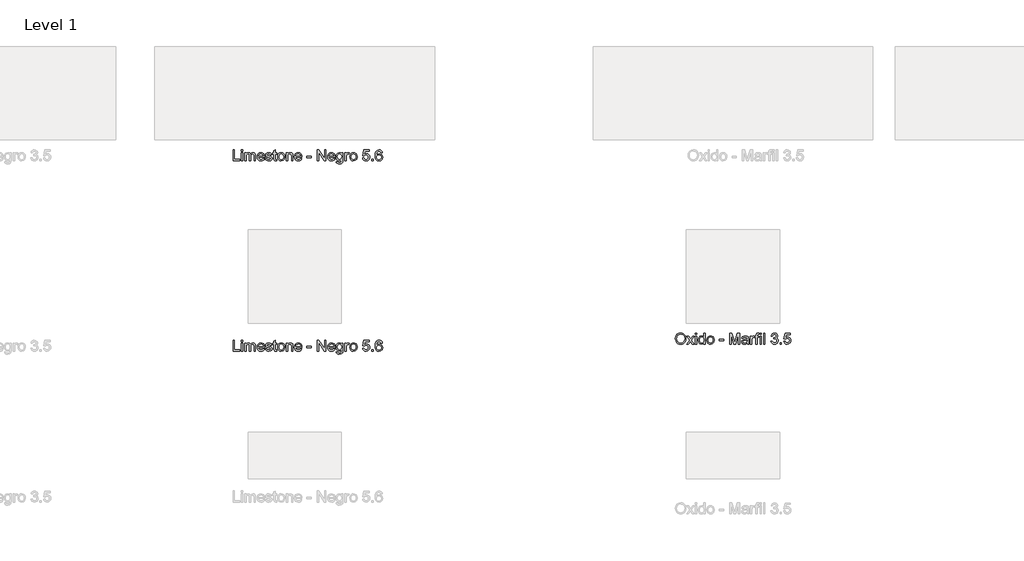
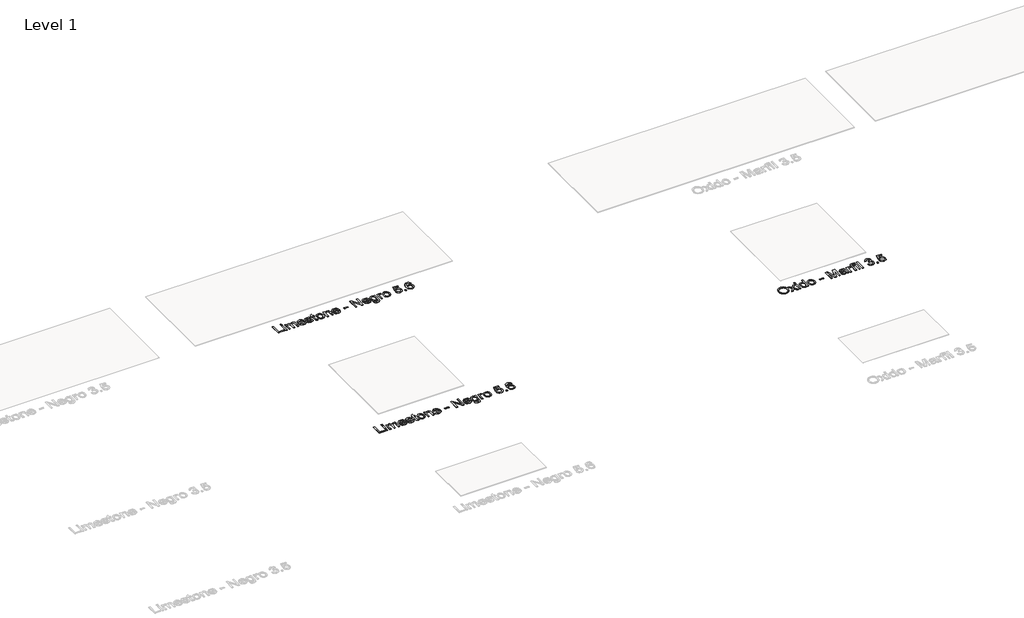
# One storey, part 29 of 80: 3 proxies.
"""IFC4 building model written with IfcOpenShell, lengths in millimetres."""

from ifc_helpers import new_model, si_unit, origin, origin_with_axes, place, context, project, spatial, polyline, outline, extrude, element, save

model = new_model("IFC4")

# Units and contexts
model_context = context("Model", 3, world=origin())
ifc_project = project(units=[si_unit("LENGTHUNIT", "METRE", prefix="MILLI")], contexts=[model_context])

# Site, building, storey
site = spatial("IfcSite", under=ifc_project)
building = spatial("IfcBuilding", under=site)
storey = spatial("IfcBuildingStorey", under=building, Name="Level 1", Elevation=0.0)

# Proxies
placement = place(None, origin())
element("IfcBuildingElementProxy", 1, Name="24\" Arial", ObjectType="24\" Arial", at=placement, inside=storey, context=model_context, shape_type="SweptSolid", body=[
    extrude(outline(polyline([(173.5392767, -16654.869717), (173.5392767, -16536.7158709), (188.3085075, -16536.7158709), (188.3085075, -16640.1004862), (247.3854306, -16640.1004862), (247.3854306, -16654.869717), (173.5392767, -16654.869717)])), origin_with_axes(), (0.0, 0.0, 1.0), 2.0),
    extrude(outline(polyline([(262.1546613, -16551.4851016), (262.1546613, -16536.7158709), (276.9238921, -16536.7158709), (276.9238921, -16551.4851016), (262.1546613, -16551.4851016)])), origin_with_axes(), (0.0, 0.0, 1.0), 2.0),
    extrude(outline(polyline([(262.1546613, -16654.869717), (262.1546613, -16568.1004862), (276.9238921, -16568.1004862), (276.9238921, -16654.869717), (262.1546613, -16654.869717)])), origin_with_axes(), (0.0, 0.0, 1.0), 2.0),
    extrude(outline(polyline([(299.0777383, -16654.869717), (299.0777383, -16568.1004862), (313.846969, -16568.1004862), (313.846969, -16582.3793324), (324.0008152, -16570.682217), (338.4527383, -16566.2543324), (353.2508152, -16570.7687555), (361.3854306, -16583.4177939), (372.909469, -16570.5451978), (387.4623536, -16566.2543324), (398.5645171, -16568.0391882), (406.7748536, -16573.3937555), (411.8481709, -16582.4622651), (413.5392767, -16595.3889478), (413.5392767, -16654.869717), (398.7700459, -16654.869717), (398.7700459, -16601.7351016), (397.3998536, -16589.4033709), (392.4383152, -16583.3312555), (384.0008152, -16581.0235632), (375.9996133, -16582.5019285), (369.4767767, -16586.9370247), (365.1390363, -16594.6317362), (363.6931229, -16605.8889478), (363.6931229, -16654.869717), (348.9238921, -16654.869717), (348.9238921, -16600.0908709), (345.5056229, -16585.7831785), (334.2988921, -16581.0235632), (323.3661998, -16584.1966401), (316.096969, -16593.4851016), (313.846969, -16611.1101016), (313.846969, -16654.869717), (299.0777383, -16654.869717)])), origin_with_axes(), (0.0, 0.0, 1.0), 2.0),
    extrude(outline(polyline([(496.4431229, -16629.0235632), (510.9238921, -16630.869717), (505.706344, -16641.7807747), (497.3806229, -16649.9370247), (486.1342286, -16655.0211593), (472.1546613, -16656.7158709), (454.8253344, -16653.791592), (441.4911998, -16645.0187555), (432.9887959, -16630.9670728), (430.1546613, -16612.2062555), (433.0176421, -16592.8144285), (441.6065844, -16578.3120247), (454.7604306, -16569.2687555), (471.3181229, -16566.2543324), (487.3601902, -16569.2615439), (500.1786998, -16578.2831785), (508.5837479, -16592.7567362), (511.3854306, -16612.119717), (511.2988921, -16616.1004862), (444.9238921, -16616.1004862), (447.4803825, -16627.1557747), (453.4190844, -16635.2831785), (461.9899979, -16640.2807747), (472.4431229, -16641.9466401), (486.9238921, -16638.8601016), (496.4431229, -16629.0235632)]), holes=[polyline([(444.9238921, -16601.3312555), (496.6161998, -16601.3312555), (490.7027383, -16587.9466401), (482.0921613, -16582.7543324), (471.2604306, -16581.0235632), (453.0729306, -16586.5476016), (447.3505748, -16593.0055343), (444.9238921, -16601.3312555)])]), origin_with_axes(), (0.0, 0.0, 1.0), 2.0),
    extrude(outline(polyline([(520.6161998, -16629.0235632), (535.3854306, -16627.1774093), (542.221969, -16638.1389478), (557.8854306, -16641.9466401), (572.9431229, -16638.4562555), (577.846969, -16630.2639478), (572.9142767, -16623.6293324), (557.7123536, -16619.4177939), (535.471969, -16612.1918324), (525.7652383, -16603.7543324), (522.4623536, -16591.8408709), (525.1161998, -16580.8360632), (532.3565844, -16572.4274093), (541.7460075, -16568.057217), (554.4527383, -16566.2543324), (572.4238921, -16569.1533709), (583.846969, -16576.9995247), (588.9238921, -16590.2543324), (574.1546613, -16592.1004862), (568.6017767, -16583.9514478), (555.6065844, -16581.0235632), (541.471969, -16583.8216401), (537.2315844, -16590.3408709), (538.9911998, -16594.6389478), (544.5008152, -16597.8985632), (557.221969, -16601.0427939), (578.8998536, -16607.994717), (588.9671613, -16615.869717), (592.6161998, -16628.7062555), (588.3325459, -16642.8408709), (575.971969, -16653.0956785), (557.6835075, -16656.7158709), (542.7916806, -16654.9706785), (531.9238921, -16649.7351016), (524.6690844, -16641.0668324), (520.6161998, -16629.0235632)])), origin_with_axes(), (0.0, 0.0, 1.0), 2.0),
    extrude(outline(polyline([(640.6161998, -16642.5524093), (642.4623536, -16655.3024093), (631.4142767, -16656.7158709), (619.0392767, -16654.2639478), (612.8661998, -16647.8312555), (611.0777383, -16631.0716401), (611.0777383, -16582.869717), (600.0008152, -16582.869717), (600.0008152, -16568.1004862), (611.0777383, -16568.1004862), (611.0777383, -16547.0139478), (625.846969, -16538.3312555), (625.846969, -16568.1004862), (640.6161998, -16568.1004862), (640.6161998, -16582.869717), (625.846969, -16582.869717), (625.846969, -16630.6389478), (626.6258152, -16638.2543324), (629.1498536, -16640.9514478), (634.1835075, -16641.9466401), (640.6161998, -16642.5524093)])), origin_with_axes(), (0.0, 0.0, 1.0), 2.0),
    extrude(outline(polyline([(651.6931229, -16611.4851016), (654.8878344, -16590.5644285), (664.471969, -16575.8601016), (676.3133152, -16568.6557747), (690.4911998, -16566.2543324), (706.0068248, -16569.1786112), (718.3998536, -16577.9514478), (726.5236517, -16591.8805343), (729.2315844, -16610.2735632), (724.4431229, -16636.5524093), (710.4960075, -16651.4226016), (690.4911998, -16656.7158709), (674.7880748, -16653.8024093), (662.409469, -16645.0620247), (654.3722094, -16630.8408709), (651.6931229, -16611.4851016)]), holes=[polyline([(666.4623536, -16611.4562555), (668.1714883, -16624.822842), (673.2988921, -16634.3456785), (681.0152383, -16640.0463997), (690.4911998, -16641.9466401), (699.9238921, -16640.0355824), (707.6258152, -16634.3024093), (712.753219, -16624.6533709), (714.4623536, -16610.994717), (712.7424017, -16598.0175535), (707.5825459, -16588.6245247), (699.8698056, -16582.9238035), (690.4911998, -16581.0235632), (681.0152383, -16582.916592), (673.2988921, -16588.5956785), (668.1714883, -16598.0968805), (666.4623536, -16611.4562555)])]), origin_with_axes(), (0.0, 0.0, 1.0), 2.0),
    extrude(outline(polyline([(745.846969, -16654.869717), (745.846969, -16568.1004862), (760.6161998, -16568.1004862), (760.6161998, -16580.2158709), (771.909469, -16569.744717), (787.3277383, -16566.2543324), (801.2748536, -16569.0668324), (810.7940844, -16576.4514478), (815.221969, -16587.3120247), (816.0008152, -16601.5908709), (816.0008152, -16654.869717), (801.2315844, -16654.869717), (801.2315844, -16603.5812555), (799.5296613, -16590.5139478), (793.5152383, -16583.6052939), (783.3758152, -16581.0235632), (767.3517767, -16586.8216401), (762.300094, -16595.2230824), (760.6161998, -16608.8312555), (760.6161998, -16654.869717), (745.846969, -16654.869717)])), origin_with_axes(), (0.0, 0.0, 1.0), 2.0),
    extrude(outline(polyline([(897.0585075, -16629.0235632), (911.5392767, -16630.869717), (906.3217286, -16641.7807747), (897.9960075, -16649.9370247), (886.7496133, -16655.0211593), (872.7700459, -16656.7158709), (855.440719, -16653.791592), (842.1065844, -16645.0187555), (833.6041806, -16630.9670728), (830.7700459, -16612.2062555), (833.6330267, -16592.8144285), (842.221969, -16578.3120247), (855.3758152, -16569.2687555), (871.9335075, -16566.2543324), (887.9755748, -16569.2615439), (900.7940844, -16578.2831785), (909.1991325, -16592.7567362), (912.0008152, -16612.119717), (911.9142767, -16616.1004862), (845.5392767, -16616.1004862), (848.0957671, -16627.1557747), (854.034469, -16635.2831785), (862.6053825, -16640.2807747), (873.0585075, -16641.9466401), (887.5392767, -16638.8601016), (897.0585075, -16629.0235632)]), holes=[polyline([(845.5392767, -16601.3312555), (897.2315844, -16601.3312555), (891.3181229, -16587.9466401), (882.7075459, -16582.7543324), (871.8758152, -16581.0235632), (853.6883152, -16586.5476016), (847.9659594, -16593.0055343), (845.5392767, -16601.3312555)])]), origin_with_axes(), (0.0, 0.0, 1.0), 2.0),
    extrude(outline(polyline([(965.5392767, -16619.7927939), (965.5392767, -16605.0235632), (1011.6931229, -16605.0235632), (1011.6931229, -16619.7927939), (965.5392767, -16619.7927939)])), origin_with_axes(), (0.0, 0.0, 1.0), 2.0),
    extrude(outline(polyline([(1076.3085075, -16654.869717), (1076.3085075, -16536.7158709), (1092.1161998, -16536.7158709), (1153.846969, -16630.3216401), (1153.846969, -16536.7158709), (1168.6161998, -16536.7158709), (1168.6161998, -16654.869717), (1152.8085075, -16654.869717), (1091.0777383, -16561.2351016), (1091.0777383, -16654.869717), (1076.3085075, -16654.869717)])), origin_with_axes(), (0.0, 0.0, 1.0), 2.0),
    extrude(outline(polyline([(1253.3661998, -16629.0235632), (1267.846969, -16630.869717), (1262.6294209, -16641.7807747), (1254.3036998, -16649.9370247), (1243.0573056, -16655.0211593), (1229.0777383, -16656.7158709), (1211.7484113, -16653.791592), (1198.4142767, -16645.0187555), (1189.9118729, -16630.9670728), (1187.0777383, -16612.2062555), (1189.940719, -16592.8144285), (1198.5296613, -16578.3120247), (1211.6835075, -16569.2687555), (1228.2411998, -16566.2543324), (1244.2832671, -16569.2615439), (1257.1017767, -16578.2831785), (1265.5068248, -16592.7567362), (1268.3085075, -16612.119717), (1268.221969, -16616.1004862), (1201.846969, -16616.1004862), (1204.4034594, -16627.1557747), (1210.3421613, -16635.2831785), (1218.9130748, -16640.2807747), (1229.3661998, -16641.9466401), (1243.846969, -16638.8601016), (1253.3661998, -16629.0235632)]), holes=[polyline([(1201.846969, -16601.3312555), (1253.5392767, -16601.3312555), (1247.6258152, -16587.9466401), (1239.0152383, -16582.7543324), (1228.1835075, -16581.0235632), (1209.9960075, -16586.5476016), (1204.2736517, -16593.0055343), (1201.846969, -16601.3312555)])]), origin_with_axes(), (0.0, 0.0, 1.0), 2.0),
    extrude(outline(polyline([(1279.3854306, -16662.2543324), (1294.1546613, -16664.1004862), (1298.9431229, -16671.8889478), (1313.2796613, -16675.1774093), (1328.3950459, -16671.4562555), (1335.6065844, -16661.0139478), (1336.6161998, -16643.7927939), (1326.2171613, -16652.1004862), (1313.5392767, -16654.869717), (1298.3121133, -16651.6461593), (1286.9575459, -16641.9754862), (1279.893844, -16627.7976016), (1277.5392767, -16611.0524093), (1281.7652383, -16588.1629862), (1293.9960075, -16571.9658709), (1312.8181229, -16566.2543324), (1325.9936036, -16569.4851016), (1336.6161998, -16579.1774093), (1336.6161998, -16568.1004862), (1351.3854306, -16568.1004862), (1351.3854306, -16643.0139478), (1347.346969, -16671.7014478), (1334.5536998, -16685.0427939), (1312.9911998, -16689.9466401), (1299.2496133, -16688.2194766), (1288.4286998, -16683.0379862), (1281.487594, -16674.3877459), (1279.3854306, -16662.2543324)]), holes=[polyline([(1292.3085075, -16610.0427939), (1293.8842286, -16623.5896689), (1298.6113921, -16632.9033709), (1305.7183633, -16638.3012074), (1314.4335075, -16640.1004862), (1323.0837479, -16638.3120247), (1330.2267767, -16632.9466401), (1335.018844, -16623.7519285), (1336.6161998, -16610.4754862), (1334.971969, -16597.6713997), (1330.0392767, -16588.4514478), (1322.7916806, -16582.8805343), (1314.2027383, -16581.0235632), (1305.768844, -16582.8516882), (1298.6979306, -16588.3360632), (1293.9058633, -16597.4189959), (1292.3085075, -16610.0427939)])]), origin_with_axes(), (0.0, 0.0, 1.0), 2.0),
    extrude(outline(polyline([(1373.5392767, -16654.869717), (1373.5392767, -16568.1004862), (1386.4623536, -16568.1004862), (1386.4623536, -16580.9370247), (1395.6354306, -16569.1101016), (1404.8661998, -16566.2543324), (1419.6931229, -16570.8120247), (1414.7604306, -16584.0524093), (1404.3758152, -16581.0235632), (1396.0248536, -16583.9370247), (1390.7027383, -16592.0139478), (1388.3085075, -16609.2639478), (1388.3085075, -16654.869717), (1373.5392767, -16654.869717)])), origin_with_axes(), (0.0, 0.0, 1.0), 2.0),
    extrude(outline(polyline([(1425.2315844, -16611.4851016), (1428.4262959, -16590.5644285), (1438.0104306, -16575.8601016), (1449.8517767, -16568.6557747), (1464.0296613, -16566.2543324), (1479.5452863, -16569.1786112), (1491.9383152, -16577.9514478), (1500.0621133, -16591.8805343), (1502.7700459, -16610.2735632), (1497.9815844, -16636.5524093), (1484.034469, -16651.4226016), (1464.0296613, -16656.7158709), (1448.3265363, -16653.8024093), (1435.9479306, -16645.0620247), (1427.9106709, -16630.8408709), (1425.2315844, -16611.4851016)]), holes=[polyline([(1440.0008152, -16611.4562555), (1441.7099498, -16624.822842), (1446.8373536, -16634.3456785), (1454.5536998, -16640.0463997), (1464.0296613, -16641.9466401), (1473.4623536, -16640.0355824), (1481.1642767, -16634.3024093), (1486.2916806, -16624.6533709), (1488.0008152, -16610.994717), (1486.2808633, -16598.0175535), (1481.1210075, -16588.6245247), (1473.4082671, -16582.9238035), (1464.0296613, -16581.0235632), (1454.5536998, -16582.916592), (1446.8373536, -16588.5956785), (1441.7099498, -16598.0968805), (1440.0008152, -16611.4562555)])]), origin_with_axes(), (0.0, 0.0, 1.0), 2.0),
    extrude(outline(polyline([(1561.846969, -16623.4851016), (1576.6161998, -16621.6389478), (1584.0585075, -16636.8552939), (1599.4911998, -16641.9466401), (1610.0777383, -16640.1762074), (1618.0104306, -16634.8649093), (1622.9647575, -16626.6257266), (1624.6161998, -16616.0716401), (1623.0693248, -16606.1341401), (1618.4286998, -16598.5331785), (1610.6582671, -16593.7086593), (1599.721969, -16592.1004862), (1586.7556229, -16594.6677939), (1578.4623536, -16601.3312555), (1563.6931229, -16599.4851016), (1576.6161998, -16538.5620247), (1633.846969, -16538.5620247), (1633.846969, -16553.3312555), (1588.5585075, -16553.3312555), (1582.2411998, -16585.869717), (1592.7916806, -16579.4658709), (1603.846969, -16577.3312555), (1617.6462479, -16579.9778901), (1629.1017767, -16587.9177939), (1636.8145171, -16600.0187555), (1639.3854306, -16615.1485632), (1637.0705267, -16629.9177939), (1630.1258152, -16642.5524093), (1616.8277383, -16653.1750055), (1599.4335075, -16656.7158709), (1584.9274979, -16654.4406305), (1573.3710075, -16647.6149093), (1565.4491325, -16637.0319766), (1561.846969, -16623.4851016)])), origin_with_axes(), (0.0, 0.0, 1.0), 2.0),
    extrude(outline(polyline([(1659.6931229, -16654.869717), (1659.6931229, -16640.1004862), (1674.4623536, -16640.1004862), (1674.4623536, -16654.869717), (1659.6931229, -16654.869717)])), origin_with_axes(), (0.0, 0.0, 1.0), 2.0),
    extrude(outline(polyline([(1774.1546613, -16568.1004862), (1759.3854306, -16569.9466401), (1753.7892767, -16557.6293324), (1747.0897575, -16553.0211593), (1738.9911998, -16551.4851016), (1725.6642767, -16555.0620247), (1715.5825459, -16568.4899093), (1711.3854306, -16594.8120247), (1724.409469, -16583.0283709), (1740.5488921, -16579.1774093), (1754.1931229, -16581.8096209), (1765.6450459, -16589.7062555), (1773.4118729, -16601.7711593), (1776.0008152, -16616.9081785), (1771.1258152, -16637.2879862), (1757.7123536, -16651.7110632), (1738.3565844, -16656.7158709), (1721.6005748, -16653.3985632), (1708.2556229, -16643.4466401), (1699.5260556, -16625.8793324), (1696.6161998, -16599.7158709), (1699.846969, -16570.3000055), (1709.5392767, -16550.1870247), (1722.7724498, -16540.0836593), (1739.9142767, -16536.7158709), (1752.8734113, -16538.8000055), (1763.2508152, -16545.0524093), (1770.5200459, -16554.9826978), (1774.1546613, -16568.1004862)]), holes=[polyline([(1711.3854306, -16616.6774093), (1714.8036998, -16629.4706785), (1723.8902383, -16638.7591401), (1737.2027383, -16641.9466401), (1746.9491325, -16640.2951978), (1754.6113921, -16635.3408709), (1759.5765363, -16627.5524093), (1761.2315844, -16617.3985632), (1759.5981709, -16607.6521689), (1754.6979306, -16600.2206785), (1746.9058633, -16595.5151497), (1736.596969, -16593.9466401), (1726.8649979, -16595.5151497), (1718.7267767, -16600.2206785), (1713.2207671, -16607.4718805), (1711.3854306, -16616.6774093)])]), origin_with_axes(), (0.0, 0.0, 1.0), 2.0),
])
element("IfcBuildingElementProxy", 2, Name="24\" Arial", ObjectType="24\" Arial", at=placement, inside=storey, context=model_context, shape_type="SweptSolid", body=[
    extrude(outline(polyline([(173.5392767, -18695.513613), (173.5392767, -18577.3597669), (188.3085075, -18577.3597669), (188.3085075, -18680.7443823), (247.3854306, -18680.7443823), (247.3854306, -18695.513613), (173.5392767, -18695.513613)])), origin_with_axes(), (0.0, 0.0, 1.0), 2.0),
    extrude(outline(polyline([(262.1546613, -18592.1289977), (262.1546613, -18577.3597669), (276.9238921, -18577.3597669), (276.9238921, -18592.1289977), (262.1546613, -18592.1289977)])), origin_with_axes(), (0.0, 0.0, 1.0), 2.0),
    extrude(outline(polyline([(262.1546613, -18695.513613), (262.1546613, -18608.7443823), (276.9238921, -18608.7443823), (276.9238921, -18695.513613), (262.1546613, -18695.513613)])), origin_with_axes(), (0.0, 0.0, 1.0), 2.0),
    extrude(outline(polyline([(299.0777383, -18695.513613), (299.0777383, -18608.7443823), (313.846969, -18608.7443823), (313.846969, -18623.0232284), (324.0008152, -18611.326113), (338.4527383, -18606.8982284), (353.2508152, -18611.4126515), (361.3854306, -18624.06169), (372.909469, -18611.1890938), (387.4623536, -18606.8982284), (398.5645171, -18608.6830842), (406.7748536, -18614.0376515), (411.8481709, -18623.1061611), (413.5392767, -18636.0328438), (413.5392767, -18695.513613), (398.7700459, -18695.513613), (398.7700459, -18642.3789977), (397.3998536, -18630.0472669), (392.4383152, -18623.9751515), (384.0008152, -18621.6674592), (375.9996133, -18623.1458246), (369.4767767, -18627.5809207), (365.1390363, -18635.2756323), (363.6931229, -18646.5328438), (363.6931229, -18695.513613), (348.9238921, -18695.513613), (348.9238921, -18640.7347669), (345.5056229, -18626.4270746), (334.2988921, -18621.6674592), (323.3661998, -18624.8405361), (316.096969, -18634.1289977), (313.846969, -18651.7539977), (313.846969, -18695.513613), (299.0777383, -18695.513613)])), origin_with_axes(), (0.0, 0.0, 1.0), 2.0),
    extrude(outline(polyline([(496.4431229, -18669.6674592), (510.9238921, -18671.513613), (505.706344, -18682.4246707), (497.3806229, -18690.5809207), (486.1342286, -18695.6650553), (472.1546613, -18697.3597669), (454.8253344, -18694.435488), (441.4911998, -18685.6626515), (432.9887959, -18671.6109688), (430.1546613, -18652.8501515), (433.0176421, -18633.4583246), (441.6065844, -18618.9559207), (454.7604306, -18609.9126515), (471.3181229, -18606.8982284), (487.3601902, -18609.90544), (500.1786998, -18618.9270746), (508.5837479, -18633.4006323), (511.3854306, -18652.763613), (511.2988921, -18656.7443823), (444.9238921, -18656.7443823), (447.4803825, -18667.7996707), (453.4190844, -18675.9270746), (461.9899979, -18680.9246707), (472.4431229, -18682.5905361), (486.9238921, -18679.5039977), (496.4431229, -18669.6674592)]), holes=[polyline([(444.9238921, -18641.9751515), (496.6161998, -18641.9751515), (490.7027383, -18628.5905361), (482.0921613, -18623.3982284), (471.2604306, -18621.6674592), (453.0729306, -18627.1914977), (447.3505748, -18633.6494303), (444.9238921, -18641.9751515)])]), origin_with_axes(), (0.0, 0.0, 1.0), 2.0),
    extrude(outline(polyline([(520.6161998, -18669.6674592), (535.3854306, -18667.8213053), (542.221969, -18678.7828438), (557.8854306, -18682.5905361), (572.9431229, -18679.1001515), (577.846969, -18670.9078438), (572.9142767, -18664.2732284), (557.7123536, -18660.06169), (535.471969, -18652.8357284), (525.7652383, -18644.3982284), (522.4623536, -18632.4847669), (525.1161998, -18621.4799592), (532.3565844, -18613.0713053), (541.7460075, -18608.701113), (554.4527383, -18606.8982284), (572.4238921, -18609.7972669), (583.846969, -18617.6434207), (588.9238921, -18630.8982284), (574.1546613, -18632.7443823), (568.6017767, -18624.5953438), (555.6065844, -18621.6674592), (541.471969, -18624.4655361), (537.2315844, -18630.9847669), (538.9911998, -18635.2828438), (544.5008152, -18638.5424592), (557.221969, -18641.68669), (578.8998536, -18648.638613), (588.9671613, -18656.513613), (592.6161998, -18669.3501515), (588.3325459, -18683.4847669), (575.971969, -18693.7395746), (557.6835075, -18697.3597669), (542.7916806, -18695.6145746), (531.9238921, -18690.3789977), (524.6690844, -18681.7107284), (520.6161998, -18669.6674592)])), origin_with_axes(), (0.0, 0.0, 1.0), 2.0),
    extrude(outline(polyline([(640.6161998, -18683.1963053), (642.4623536, -18695.9463053), (631.4142767, -18697.3597669), (619.0392767, -18694.9078438), (612.8661998, -18688.4751515), (611.0777383, -18671.7155361), (611.0777383, -18623.513613), (600.0008152, -18623.513613), (600.0008152, -18608.7443823), (611.0777383, -18608.7443823), (611.0777383, -18587.6578438), (625.846969, -18578.9751515), (625.846969, -18608.7443823), (640.6161998, -18608.7443823), (640.6161998, -18623.513613), (625.846969, -18623.513613), (625.846969, -18671.2828438), (626.6258152, -18678.8982284), (629.1498536, -18681.5953438), (634.1835075, -18682.5905361), (640.6161998, -18683.1963053)])), origin_with_axes(), (0.0, 0.0, 1.0), 2.0),
    extrude(outline(polyline([(651.6931229, -18652.1289977), (654.8878344, -18631.2083246), (664.471969, -18616.5039977), (676.3133152, -18609.2996707), (690.4911998, -18606.8982284), (706.0068248, -18609.8225073), (718.3998536, -18618.5953438), (726.5236517, -18632.5244303), (729.2315844, -18650.9174592), (724.4431229, -18677.1963053), (710.4960075, -18692.0664977), (690.4911998, -18697.3597669), (674.7880748, -18694.4463053), (662.409469, -18685.7059207), (654.3722094, -18671.4847669), (651.6931229, -18652.1289977)]), holes=[polyline([(666.4623536, -18652.1001515), (668.1714883, -18665.466738), (673.2988921, -18674.9895746), (681.0152383, -18680.6902957), (690.4911998, -18682.5905361), (699.9238921, -18680.6794784), (707.6258152, -18674.9463053), (712.753219, -18665.2972669), (714.4623536, -18651.638613), (712.7424017, -18638.6614496), (707.5825459, -18629.2684207), (699.8698056, -18623.5676996), (690.4911998, -18621.6674592), (681.0152383, -18623.560488), (673.2988921, -18629.2395746), (668.1714883, -18638.7407765), (666.4623536, -18652.1001515)])]), origin_with_axes(), (0.0, 0.0, 1.0), 2.0),
    extrude(outline(polyline([(745.846969, -18695.513613), (745.846969, -18608.7443823), (760.6161998, -18608.7443823), (760.6161998, -18620.8597669), (771.909469, -18610.388613), (787.3277383, -18606.8982284), (801.2748536, -18609.7107284), (810.7940844, -18617.0953438), (815.221969, -18627.9559207), (816.0008152, -18642.2347669), (816.0008152, -18695.513613), (801.2315844, -18695.513613), (801.2315844, -18644.2251515), (799.5296613, -18631.1578438), (793.5152383, -18624.24919), (783.3758152, -18621.6674592), (767.3517767, -18627.4655361), (762.300094, -18635.8669784), (760.6161998, -18649.4751515), (760.6161998, -18695.513613), (745.846969, -18695.513613)])), origin_with_axes(), (0.0, 0.0, 1.0), 2.0),
    extrude(outline(polyline([(897.0585075, -18669.6674592), (911.5392767, -18671.513613), (906.3217286, -18682.4246707), (897.9960075, -18690.5809207), (886.7496133, -18695.6650553), (872.7700459, -18697.3597669), (855.440719, -18694.435488), (842.1065844, -18685.6626515), (833.6041806, -18671.6109688), (830.7700459, -18652.8501515), (833.6330267, -18633.4583246), (842.221969, -18618.9559207), (855.3758152, -18609.9126515), (871.9335075, -18606.8982284), (887.9755748, -18609.90544), (900.7940844, -18618.9270746), (909.1991325, -18633.4006323), (912.0008152, -18652.763613), (911.9142767, -18656.7443823), (845.5392767, -18656.7443823), (848.0957671, -18667.7996707), (854.034469, -18675.9270746), (862.6053825, -18680.9246707), (873.0585075, -18682.5905361), (887.5392767, -18679.5039977), (897.0585075, -18669.6674592)]), holes=[polyline([(845.5392767, -18641.9751515), (897.2315844, -18641.9751515), (891.3181229, -18628.5905361), (882.7075459, -18623.3982284), (871.8758152, -18621.6674592), (853.6883152, -18627.1914977), (847.9659594, -18633.6494303), (845.5392767, -18641.9751515)])]), origin_with_axes(), (0.0, 0.0, 1.0), 2.0),
    extrude(outline(polyline([(965.5392767, -18660.43669), (965.5392767, -18645.6674592), (1011.6931229, -18645.6674592), (1011.6931229, -18660.43669), (965.5392767, -18660.43669)])), origin_with_axes(), (0.0, 0.0, 1.0), 2.0),
    extrude(outline(polyline([(1076.3085075, -18695.513613), (1076.3085075, -18577.3597669), (1092.1161998, -18577.3597669), (1153.846969, -18670.9655361), (1153.846969, -18577.3597669), (1168.6161998, -18577.3597669), (1168.6161998, -18695.513613), (1152.8085075, -18695.513613), (1091.0777383, -18601.8789977), (1091.0777383, -18695.513613), (1076.3085075, -18695.513613)])), origin_with_axes(), (0.0, 0.0, 1.0), 2.0),
    extrude(outline(polyline([(1253.3661998, -18669.6674592), (1267.846969, -18671.513613), (1262.6294209, -18682.4246707), (1254.3036998, -18690.5809207), (1243.0573056, -18695.6650553), (1229.0777383, -18697.3597669), (1211.7484113, -18694.435488), (1198.4142767, -18685.6626515), (1189.9118729, -18671.6109688), (1187.0777383, -18652.8501515), (1189.940719, -18633.4583246), (1198.5296613, -18618.9559207), (1211.6835075, -18609.9126515), (1228.2411998, -18606.8982284), (1244.2832671, -18609.90544), (1257.1017767, -18618.9270746), (1265.5068248, -18633.4006323), (1268.3085075, -18652.763613), (1268.221969, -18656.7443823), (1201.846969, -18656.7443823), (1204.4034594, -18667.7996707), (1210.3421613, -18675.9270746), (1218.9130748, -18680.9246707), (1229.3661998, -18682.5905361), (1243.846969, -18679.5039977), (1253.3661998, -18669.6674592)]), holes=[polyline([(1201.846969, -18641.9751515), (1253.5392767, -18641.9751515), (1247.6258152, -18628.5905361), (1239.0152383, -18623.3982284), (1228.1835075, -18621.6674592), (1209.9960075, -18627.1914977), (1204.2736517, -18633.6494303), (1201.846969, -18641.9751515)])]), origin_with_axes(), (0.0, 0.0, 1.0), 2.0),
    extrude(outline(polyline([(1279.3854306, -18702.8982284), (1294.1546613, -18704.7443823), (1298.9431229, -18712.5328438), (1313.2796613, -18715.8213053), (1328.3950459, -18712.1001515), (1335.6065844, -18701.6578438), (1336.6161998, -18684.43669), (1326.2171613, -18692.7443823), (1313.5392767, -18695.513613), (1298.3121133, -18692.2900553), (1286.9575459, -18682.6193823), (1279.893844, -18668.4414977), (1277.5392767, -18651.6963053), (1281.7652383, -18628.8068823), (1293.9960075, -18612.6097669), (1312.8181229, -18606.8982284), (1325.9936036, -18610.1289977), (1336.6161998, -18619.8213053), (1336.6161998, -18608.7443823), (1351.3854306, -18608.7443823), (1351.3854306, -18683.6578438), (1347.346969, -18712.3453438), (1334.5536998, -18725.68669), (1312.9911998, -18730.5905361), (1299.2496133, -18728.8633727), (1288.4286998, -18723.6818823), (1281.487594, -18715.0316419), (1279.3854306, -18702.8982284)]), holes=[polyline([(1292.3085075, -18650.68669), (1293.8842286, -18664.233565), (1298.6113921, -18673.5472669), (1305.7183633, -18678.9451034), (1314.4335075, -18680.7443823), (1323.0837479, -18678.9559207), (1330.2267767, -18673.5905361), (1335.018844, -18664.3958246), (1336.6161998, -18651.1193823), (1334.971969, -18638.3152957), (1330.0392767, -18629.0953438), (1322.7916806, -18623.5244303), (1314.2027383, -18621.6674592), (1305.768844, -18623.4955842), (1298.6979306, -18628.9799592), (1293.9058633, -18638.0628919), (1292.3085075, -18650.68669)])]), origin_with_axes(), (0.0, 0.0, 1.0), 2.0),
    extrude(outline(polyline([(1373.5392767, -18695.513613), (1373.5392767, -18608.7443823), (1386.4623536, -18608.7443823), (1386.4623536, -18621.5809207), (1395.6354306, -18609.7539977), (1404.8661998, -18606.8982284), (1419.6931229, -18611.4559207), (1414.7604306, -18624.6963053), (1404.3758152, -18621.6674592), (1396.0248536, -18624.5809207), (1390.7027383, -18632.6578438), (1388.3085075, -18649.9078438), (1388.3085075, -18695.513613), (1373.5392767, -18695.513613)])), origin_with_axes(), (0.0, 0.0, 1.0), 2.0),
    extrude(outline(polyline([(1425.2315844, -18652.1289977), (1428.4262959, -18631.2083246), (1438.0104306, -18616.5039977), (1449.8517767, -18609.2996707), (1464.0296613, -18606.8982284), (1479.5452863, -18609.8225073), (1491.9383152, -18618.5953438), (1500.0621133, -18632.5244303), (1502.7700459, -18650.9174592), (1497.9815844, -18677.1963053), (1484.034469, -18692.0664977), (1464.0296613, -18697.3597669), (1448.3265363, -18694.4463053), (1435.9479306, -18685.7059207), (1427.9106709, -18671.4847669), (1425.2315844, -18652.1289977)]), holes=[polyline([(1440.0008152, -18652.1001515), (1441.7099498, -18665.466738), (1446.8373536, -18674.9895746), (1454.5536998, -18680.6902957), (1464.0296613, -18682.5905361), (1473.4623536, -18680.6794784), (1481.1642767, -18674.9463053), (1486.2916806, -18665.2972669), (1488.0008152, -18651.638613), (1486.2808633, -18638.6614496), (1481.1210075, -18629.2684207), (1473.4082671, -18623.5676996), (1464.0296613, -18621.6674592), (1454.5536998, -18623.560488), (1446.8373536, -18629.2395746), (1441.7099498, -18638.7407765), (1440.0008152, -18652.1001515)])]), origin_with_axes(), (0.0, 0.0, 1.0), 2.0),
    extrude(outline(polyline([(1561.846969, -18664.1289977), (1576.6161998, -18662.2828438), (1584.0585075, -18677.49919), (1599.4911998, -18682.5905361), (1610.0777383, -18680.8201034), (1618.0104306, -18675.5088053), (1622.9647575, -18667.2696227), (1624.6161998, -18656.7155361), (1623.0693248, -18646.7780361), (1618.4286998, -18639.1770746), (1610.6582671, -18634.3525553), (1599.721969, -18632.7443823), (1586.7556229, -18635.31169), (1578.4623536, -18641.9751515), (1563.6931229, -18640.1289977), (1576.6161998, -18579.2059207), (1633.846969, -18579.2059207), (1633.846969, -18593.9751515), (1588.5585075, -18593.9751515), (1582.2411998, -18626.513613), (1592.7916806, -18620.1097669), (1603.846969, -18617.9751515), (1617.6462479, -18620.6217861), (1629.1017767, -18628.56169), (1636.8145171, -18640.6626515), (1639.3854306, -18655.7924592), (1637.0705267, -18670.56169), (1630.1258152, -18683.1963053), (1616.8277383, -18693.8189015), (1599.4335075, -18697.3597669), (1584.9274979, -18695.0845265), (1573.3710075, -18688.2588053), (1565.4491325, -18677.6758727), (1561.846969, -18664.1289977)])), origin_with_axes(), (0.0, 0.0, 1.0), 2.0),
    extrude(outline(polyline([(1659.6931229, -18695.513613), (1659.6931229, -18680.7443823), (1674.4623536, -18680.7443823), (1674.4623536, -18695.513613), (1659.6931229, -18695.513613)])), origin_with_axes(), (0.0, 0.0, 1.0), 2.0),
    extrude(outline(polyline([(1774.1546613, -18608.7443823), (1759.3854306, -18610.5905361), (1753.7892767, -18598.2732284), (1747.0897575, -18593.6650553), (1738.9911998, -18592.1289977), (1725.6642767, -18595.7059207), (1715.5825459, -18609.1338053), (1711.3854306, -18635.4559207), (1724.409469, -18623.6722669), (1740.5488921, -18619.8213053), (1754.1931229, -18622.4535169), (1765.6450459, -18630.3501515), (1773.4118729, -18642.4150553), (1776.0008152, -18657.5520746), (1771.1258152, -18677.9318823), (1757.7123536, -18692.3549592), (1738.3565844, -18697.3597669), (1721.6005748, -18694.0424592), (1708.2556229, -18684.0905361), (1699.5260556, -18666.5232284), (1696.6161998, -18640.3597669), (1699.846969, -18610.9439015), (1709.5392767, -18590.8309207), (1722.7724498, -18580.7275553), (1739.9142767, -18577.3597669), (1752.8734113, -18579.4439015), (1763.2508152, -18585.6963053), (1770.5200459, -18595.6265938), (1774.1546613, -18608.7443823)]), holes=[polyline([(1711.3854306, -18657.3213053), (1714.8036998, -18670.1145746), (1723.8902383, -18679.4030361), (1737.2027383, -18682.5905361), (1746.9491325, -18680.9390938), (1754.6113921, -18675.9847669), (1759.5765363, -18668.1963053), (1761.2315844, -18658.0424592), (1759.5981709, -18648.296065), (1754.6979306, -18640.8645746), (1746.9058633, -18636.1590457), (1736.596969, -18634.5905361), (1726.8649979, -18636.1590457), (1718.7267767, -18640.8645746), (1713.2207671, -18648.1157765), (1711.3854306, -18657.3213053)])]), origin_with_axes(), (0.0, 0.0, 1.0), 2.0),
])
element("IfcBuildingElementProxy", 3, Name="24\" Arial", ObjectType="24\" Arial", at=placement, inside=storey, context=model_context, shape_type="SweptSolid", body=[
    extrude(outline(polyline([(4916.0008152, -18562.677529), (4919.9383152, -18536.5501252), (4931.7508152, -18516.7832983), (4949.7868729, -18504.3433944), (4972.3950459, -18500.1967598), (4987.8926421, -18502.1438752), (5001.7892767, -18507.9852213), (5013.3277383, -18517.3097406), (5021.7508152, -18529.7063752), (5026.8998536, -18544.5765675), (5028.6161998, -18561.3217598), (5026.8097094, -18578.2905098), (5021.3902383, -18593.3698367), (5012.6570652, -18605.788106), (5000.909469, -18614.7736829), (4987.1318248, -18620.225606), (4972.3085075, -18622.0429137), (4956.5729306, -18620.0345002), (4942.596969, -18614.0092598), (4931.0873536, -18604.5116637), (4922.7508152, -18592.0861829), (4917.6883152, -18577.7893079), (4916.0008152, -18562.677529)]), holes=[polyline([(4930.7700459, -18562.8217598), (4933.7231709, -18581.3049329), (4942.5825459, -18595.3890675), (4955.8986517, -18604.302529), (4972.221969, -18607.2736829), (4988.7832671, -18604.2736829), (5002.1210075, -18595.2736829), (5010.9154786, -18580.756856), (5013.846969, -18561.2063752), (5008.8277383, -18536.8313752), (5002.6510556, -18527.5897887), (4994.159469, -18520.6919521), (4972.4815844, -18514.9659906), (4956.5945652, -18517.724404), (4943.0873536, -18525.9996444), (4933.8493729, -18540.7220002), (4930.7700459, -18562.8217598)])]), origin_with_axes(), (0.0, 0.0, 1.0), 2.0),
    extrude(outline(polyline([(5037.846969, -18620.1967598), (5069.4046613, -18576.5813752), (5039.6931229, -18533.427529), (5057.4623536, -18533.427529), (5071.7988921, -18554.1967598), (5078.4911998, -18564.0044521), (5084.2892767, -18555.9852213), (5100.6161998, -18533.427529), (5118.3854306, -18533.427529), (5087.1738921, -18576.5813752), (5117.2315844, -18620.1967598), (5099.4623536, -18620.1967598), (5081.3758152, -18593.975606), (5078.0585075, -18589.1871444), (5055.6161998, -18620.1967598), (5037.846969, -18620.1967598)])), origin_with_axes(), (0.0, 0.0, 1.0), 2.0),
    extrude(outline(polyline([(5130.1546613, -18516.8121444), (5130.1546613, -18502.0429137), (5144.9238921, -18502.0429137), (5144.9238921, -18516.8121444), (5130.1546613, -18516.8121444)])), origin_with_axes(), (0.0, 0.0, 1.0), 2.0),
    extrude(outline(polyline([(5130.1546613, -18620.1967598), (5130.1546613, -18533.427529), (5144.9238921, -18533.427529), (5144.9238921, -18620.1967598), (5130.1546613, -18620.1967598)])), origin_with_axes(), (0.0, 0.0, 1.0), 2.0),
    extrude(outline(polyline([(5220.6161998, -18620.1967598), (5220.6161998, -18606.2640675), (5210.8445652, -18618.0982021), (5197.3373536, -18622.0429137), (5179.0488921, -18616.3313752), (5166.1258152, -18600.3938752), (5161.5392767, -18576.8986829), (5165.7652383, -18553.3890675), (5171.0440844, -18544.0645483), (5178.4286998, -18537.2063752), (5197.2796613, -18531.5813752), (5210.8950459, -18535.6054137), (5220.6161998, -18546.0621444), (5220.6161998, -18502.0429137), (5235.3854306, -18502.0429137), (5235.3854306, -18620.1967598), (5220.6161998, -18620.1967598)]), holes=[polyline([(5176.3085075, -18576.8409906), (5177.9743729, -18590.2003656), (5182.971969, -18599.7015675), (5190.2339883, -18605.380654), (5198.6931229, -18607.2736829), (5207.1486517, -18605.4671925), (5214.2267767, -18600.0477213), (5219.018844, -18590.9143079), (5220.6161998, -18577.9659906), (5218.9899979, -18563.8097406), (5214.1113921, -18553.9948367), (5206.8529786, -18548.2616637), (5198.0873536, -18546.350606), (5189.5416806, -18548.1859425), (5182.5392767, -18553.6919521), (5177.8661998, -18563.1498848), (5176.3085075, -18576.8409906)])]), origin_with_axes(), (0.0, 0.0, 1.0), 2.0),
    extrude(outline(polyline([(5253.846969, -18576.8121444), (5257.0416806, -18555.8914713), (5266.6258152, -18541.1871444), (5278.4671613, -18533.9828175), (5292.6450459, -18531.5813752), (5308.1606709, -18534.505654), (5320.5536998, -18543.2784906), (5328.6774979, -18557.2075771), (5331.3854306, -18575.600606), (5326.596969, -18601.8794521), (5312.6498536, -18616.7496444), (5292.6450459, -18622.0429137), (5276.9419209, -18619.1294521), (5264.5633152, -18610.3890675), (5256.5260556, -18596.1679137), (5253.846969, -18576.8121444)]), holes=[polyline([(5268.6161998, -18576.7832983), (5270.3253344, -18590.1498848), (5275.4527383, -18599.6727213), (5283.1690844, -18605.3734425), (5292.6450459, -18607.2736829), (5302.0777383, -18605.3626252), (5309.7796613, -18599.6294521), (5314.9070652, -18589.9804137), (5316.6161998, -18576.3217598), (5314.8962479, -18563.3445963), (5309.7363921, -18553.9515675), (5302.0236517, -18548.2508463), (5292.6450459, -18546.350606), (5283.1690844, -18548.2436348), (5275.4527383, -18553.9227213), (5270.3253344, -18563.4239233), (5268.6161998, -18576.7832983)])]), origin_with_axes(), (0.0, 0.0, 1.0), 2.0),
    extrude(outline(polyline([(5386.7700459, -18585.1198367), (5386.7700459, -18570.350606), (5432.9238921, -18570.350606), (5432.9238921, -18585.1198367), (5386.7700459, -18585.1198367)])), origin_with_axes(), (0.0, 0.0, 1.0), 2.0),
    extrude(outline(polyline([(5497.5392767, -18620.1967598), (5497.5392767, -18502.0429137), (5522.9527383, -18502.0429137), (5547.1258152, -18585.3217598), (5552.0008152, -18602.7159906), (5557.2796613, -18583.8794521), (5581.0488921, -18502.0429137), (5606.4623536, -18502.0429137), (5606.4623536, -18620.1967598), (5591.6931229, -18620.1967598), (5591.6931229, -18516.8121444), (5562.0104306, -18620.1967598), (5541.9911998, -18620.1967598), (5512.3085075, -18516.8121444), (5512.3085075, -18620.1967598), (5497.5392767, -18620.1967598)])), origin_with_axes(), (0.0, 0.0, 1.0), 2.0),
    extrude(outline(polyline([(5685.846969, -18609.1198367), (5671.5248536, -18619.1294521), (5655.7027383, -18622.0429137), (5643.3601902, -18620.2905098), (5634.2556229, -18615.0332983), (5628.6414402, -18607.0501252), (5626.7700459, -18597.1198367), (5629.596969, -18585.4371444), (5637.0248536, -18576.9563752), (5647.3661998, -18572.1102213), (5660.1450459, -18569.8890675), (5685.7604306, -18564.8121444), (5685.846969, -18561.5236829), (5681.7796613, -18550.6198367), (5665.4527383, -18546.350606), (5650.5104306, -18549.1919521), (5643.3854306, -18559.2736829), (5628.6161998, -18557.427529), (5635.0056229, -18543.0044521), (5647.8710075, -18534.552529), (5667.3565844, -18531.5813752), (5685.2556229, -18534.2063752), (5695.3661998, -18540.7977213), (5699.8950459, -18550.8217598), (5700.6161998, -18563.7448367), (5700.6161998, -18582.1198367), (5701.3661998, -18607.7784906), (5704.3085075, -18620.1967598), (5689.5392767, -18620.1967598), (5685.846969, -18609.1198367)]), holes=[polyline([(5685.846969, -18579.5813752), (5662.0200459, -18584.1102213), (5649.3133152, -18586.5044521), (5643.5585075, -18590.3986829), (5641.5392767, -18596.0813752), (5645.9383152, -18604.0717598), (5658.846969, -18607.2736829), (5673.7892767, -18603.740029), (5683.4238921, -18595.1871444), (5685.7604306, -18583.7640675), (5685.846969, -18579.5813752)])]), origin_with_axes(), (0.0, 0.0, 1.0), 2.0),
    extrude(outline(polyline([(5720.9238921, -18620.1967598), (5720.9238921, -18533.427529), (5733.846969, -18533.427529), (5733.846969, -18546.2640675), (5743.0200459, -18534.4371444), (5752.2508152, -18531.5813752), (5767.0777383, -18536.1390675), (5762.1450459, -18549.3794521), (5751.7604306, -18546.350606), (5743.409469, -18549.2640675), (5738.0873536, -18557.3409906), (5735.6931229, -18574.5909906), (5735.6931229, -18620.1967598), (5720.9238921, -18620.1967598)])), origin_with_axes(), (0.0, 0.0, 1.0), 2.0),
    extrude(outline(polyline([(5780.0008152, -18620.1967598), (5780.0008152, -18548.1967598), (5767.0777383, -18548.1967598), (5767.0777383, -18533.427529), (5780.0008152, -18533.427529), (5780.0008152, -18524.6871444), (5781.5585075, -18512.3698367), (5789.1161998, -18503.5717598), (5804.0008152, -18500.1967598), (5817.471969, -18501.8121444), (5815.3085075, -18515.6582983), (5806.7988921, -18514.9659906), (5797.4960075, -18517.4179137), (5794.7700459, -18526.5621444), (5794.7700459, -18533.427529), (5811.3854306, -18533.427529), (5811.3854306, -18548.1967598), (5794.7700459, -18548.1967598), (5794.7700459, -18620.1967598), (5780.0008152, -18620.1967598)])), origin_with_axes(), (0.0, 0.0, 1.0), 2.0),
    extrude(outline(polyline([(5824.3085075, -18516.8121444), (5824.3085075, -18502.0429137), (5839.0777383, -18502.0429137), (5839.0777383, -18516.8121444), (5824.3085075, -18516.8121444)])), origin_with_axes(), (0.0, 0.0, 1.0), 2.0),
    extrude(outline(polyline([(5824.3085075, -18620.1967598), (5824.3085075, -18533.427529), (5839.0777383, -18533.427529), (5839.0777383, -18620.1967598), (5824.3085075, -18620.1967598)])), origin_with_axes(), (0.0, 0.0, 1.0), 2.0),
    extrude(outline(polyline([(5861.2315844, -18620.1967598), (5861.2315844, -18502.0429137), (5876.0008152, -18502.0429137), (5876.0008152, -18620.1967598), (5861.2315844, -18620.1967598)])), origin_with_axes(), (0.0, 0.0, 1.0), 2.0),
    extrude(outline(polyline([(5940.6161998, -18588.8121444), (5955.3854306, -18586.9659906), (5963.534469, -18602.5140675), (5978.7796613, -18607.2736829), (5988.9046613, -18605.6366637), (5996.721969, -18600.725606), (6001.7195652, -18593.3986829), (6003.3854306, -18584.5140675), (6001.7339883, -18576.0801733), (5996.7796613, -18569.240029), (5989.2796613, -18564.7075771), (5979.9911998, -18563.1967598), (5969.6354306, -18564.8121444), (5971.2796613, -18550.0429137), (5973.6450459, -18550.2159906), (5990.4046613, -18545.975606), (5995.9863921, -18540.5957983), (5997.846969, -18532.9371444), (5992.4527383, -18521.3842598), (5978.5488921, -18516.8121444), (5964.471969, -18521.427529), (5957.2315844, -18535.2736829), (5942.4623536, -18533.427529), (5946.8109113, -18520.1655098), (5954.5488921, -18510.2640675), (5965.1354306, -18504.0982021), (5978.0296613, -18502.0429137), (5995.8421613, -18506.0957983), (6008.3036998, -18517.1727213), (6012.6161998, -18532.0717598), (6008.5200459, -18545.6871444), (5996.4046613, -18555.4659906), (6005.6498536, -18559.2015675), (6012.5008152, -18565.5621444), (6016.7411998, -18574.2015675), (6018.1546613, -18584.7736829), (6015.3277383, -18599.1679137), (6006.846969, -18611.1967598), (5994.0464883, -18619.3313752), (5978.2604306, -18622.0429137), (5963.9815844, -18619.7280098), (5952.3565844, -18612.7832983), (5944.2724498, -18602.1607021), (5940.6161998, -18588.8121444)])), origin_with_axes(), (0.0, 0.0, 1.0), 2.0),
    extrude(outline(polyline([(6038.4623536, -18620.1967598), (6038.4623536, -18605.427529), (6053.2315844, -18605.427529), (6053.2315844, -18620.1967598), (6038.4623536, -18620.1967598)])), origin_with_axes(), (0.0, 0.0, 1.0), 2.0),
    extrude(outline(polyline([(6077.2315844, -18588.8121444), (6092.0008152, -18586.9659906), (6099.4431229, -18602.1823367), (6114.8758152, -18607.2736829), (6125.4623536, -18605.5032502), (6133.3950459, -18600.1919521), (6138.3493729, -18591.9527694), (6140.0008152, -18581.3986829), (6138.4539402, -18571.4611829), (6133.8133152, -18563.8602213), (6126.0428825, -18559.0357021), (6115.1065844, -18557.427529), (6102.1402383, -18559.9948367), (6093.846969, -18566.6582983), (6079.0777383, -18564.8121444), (6092.0008152, -18503.8890675), (6149.2315844, -18503.8890675), (6149.2315844, -18518.6582983), (6103.9431229, -18518.6582983), (6097.6258152, -18551.1967598), (6108.1762959, -18544.7929137), (6119.2315844, -18542.6582983), (6133.0308633, -18545.3049329), (6144.4863921, -18553.2448367), (6152.1991325, -18565.3457983), (6154.7700459, -18580.475606), (6152.4551421, -18595.2448367), (6145.5104306, -18607.8794521), (6132.2123536, -18618.5020483), (6114.8181229, -18622.0429137), (6100.3121133, -18619.7676733), (6088.7556229, -18612.9419521), (6080.8337479, -18602.3590194), (6077.2315844, -18588.8121444)])), origin_with_axes(), (0.0, 0.0, 1.0), 2.0),
])

save(model, "model.ifc")
